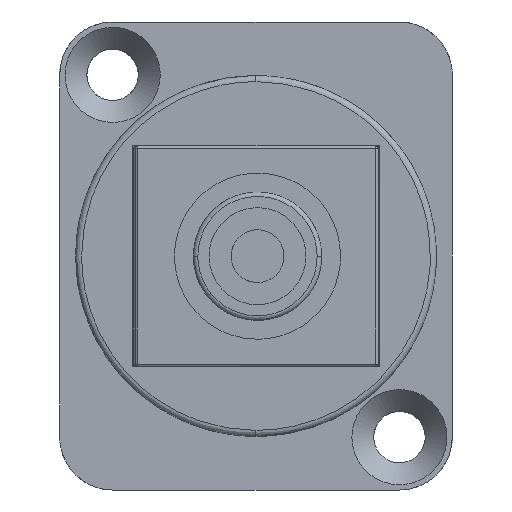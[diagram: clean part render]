
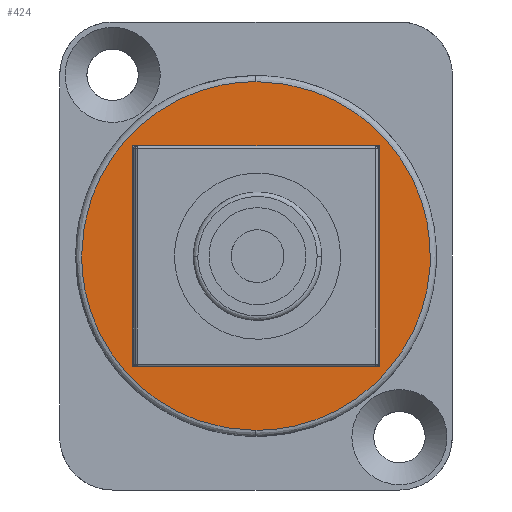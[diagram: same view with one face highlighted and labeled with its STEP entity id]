
A CAD part, front view. The second image highlights one B-rep face of the part: STEP entity #424.
In plain terms, the highlighted free-form (B-spline) face has degree [1, 1] with [2, 2] control points.
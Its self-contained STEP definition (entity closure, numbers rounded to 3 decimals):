
#44 = VERTEX_POINT('',#45);
#45 = CARTESIAN_POINT('',(0.,0.,-11.537));
#65 = EDGE_CURVE('',#44,#66,#68,.T.);
#66 = VERTEX_POINT('',#67);
#67 = CARTESIAN_POINT('',(-11.55,0.,0.013));
#68 = B_SPLINE_CURVE_WITH_KNOTS('',5,(#69,#70,#71,#72,#73,#74,#75,#76,
    #77,#78,#79,#80,#81,#82,#83),.UNSPECIFIED.,.F.,.F.,(6,3,3,3,6),(0.,
    0.393,0.785,1.178,1.571),
  .UNSPECIFIED.);
#69 = CARTESIAN_POINT('',(0.,0.,-11.537));
#70 = CARTESIAN_POINT('',(-0.907,0.,-11.537));
#71 = CARTESIAN_POINT('',(-1.814,0.,-11.448));
#72 = CARTESIAN_POINT('',(-2.71,0.,-11.269));
#73 = CARTESIAN_POINT('',(-4.454,0.,-10.74));
#74 = CARTESIAN_POINT('',(-6.062,0.,-9.881));
#75 = CARTESIAN_POINT('',(-6.821,0.,-9.374));
#76 = CARTESIAN_POINT('',(-8.23,0.,-8.217));
#77 = CARTESIAN_POINT('',(-9.387,0.,-6.808));
#78 = CARTESIAN_POINT('',(-9.894,0.,-6.049));
#79 = CARTESIAN_POINT('',(-10.753,0.,-4.441));
#80 = CARTESIAN_POINT('',(-11.283,0.,-2.696));
#81 = CARTESIAN_POINT('',(-11.461,0.,-1.801));
#82 = CARTESIAN_POINT('',(-11.55,0.,-0.894));
#83 = CARTESIAN_POINT('',(-11.55,0.,0.013));
#85 = EDGE_CURVE('',#66,#86,#88,.T.);
#86 = VERTEX_POINT('',#87);
#87 = CARTESIAN_POINT('',(0.,0.,11.563));
#88 = B_SPLINE_CURVE_WITH_KNOTS('',5,(#89,#90,#91,#92,#93,#94,#95,#96,
    #97,#98,#99,#100,#101,#102,#103),.UNSPECIFIED.,.F.,.F.,(6,3,3,3,6),(
    0.,0.393,0.785,1.178,1.571),
  .UNSPECIFIED.);
#89 = CARTESIAN_POINT('',(-11.55,0.,0.013));
#90 = CARTESIAN_POINT('',(-11.55,0.,0.921));
#91 = CARTESIAN_POINT('',(-11.461,0.,1.828));
#92 = CARTESIAN_POINT('',(-11.283,0.,2.723));
#93 = CARTESIAN_POINT('',(-10.753,0.,4.467));
#94 = CARTESIAN_POINT('',(-9.894,0.,6.075));
#95 = CARTESIAN_POINT('',(-9.387,0.,6.835));
#96 = CARTESIAN_POINT('',(-8.23,0.,8.243));
#97 = CARTESIAN_POINT('',(-6.821,0.,9.4));
#98 = CARTESIAN_POINT('',(-6.062,0.,9.908));
#99 = CARTESIAN_POINT('',(-4.454,0.,10.766));
#100 = CARTESIAN_POINT('',(-2.71,0.,11.296));
#101 = CARTESIAN_POINT('',(-1.814,0.,11.474));
#102 = CARTESIAN_POINT('',(-0.907,0.,11.563));
#103 = CARTESIAN_POINT('',(0.,0.,11.563));
#244 = EDGE_CURVE('',#86,#44,#245,.T.);
#245 = B_SPLINE_CURVE_WITH_KNOTS('',5,(#246,#247,#248,#249,#250,#251,
    #252,#253,#254,#255,#256,#257,#258,#259,#260,#261,#262,#263,#264,
    #265,#266,#267,#268,#269,#270,#271,#272),.UNSPECIFIED.,.F.,.F.,(6,3,
    3,3,3,3,3,3,6),(0.,0.393,0.785,1.178,
    1.571,1.963,2.356,2.749,
    3.142),.UNSPECIFIED.);
#246 = CARTESIAN_POINT('',(0.,0.,11.563));
#247 = CARTESIAN_POINT('',(0.907,0.,11.563));
#248 = CARTESIAN_POINT('',(1.814,0.,11.474));
#249 = CARTESIAN_POINT('',(2.71,0.,11.296));
#250 = CARTESIAN_POINT('',(4.454,0.,10.766));
#251 = CARTESIAN_POINT('',(6.062,0.,9.908));
#252 = CARTESIAN_POINT('',(6.821,0.,9.4));
#253 = CARTESIAN_POINT('',(8.23,0.,8.243));
#254 = CARTESIAN_POINT('',(9.387,0.,6.835));
#255 = CARTESIAN_POINT('',(9.894,0.,6.075));
#256 = CARTESIAN_POINT('',(10.753,0.,4.467));
#257 = CARTESIAN_POINT('',(11.283,0.,2.723));
#258 = CARTESIAN_POINT('',(11.461,0.,1.828));
#259 = CARTESIAN_POINT('',(11.639,0.,0.013));
#260 = CARTESIAN_POINT('',(11.461,0.,-1.801));
#261 = CARTESIAN_POINT('',(11.283,0.,-2.696));
#262 = CARTESIAN_POINT('',(10.753,0.,-4.441));
#263 = CARTESIAN_POINT('',(9.894,0.,-6.049));
#264 = CARTESIAN_POINT('',(9.387,0.,-6.808));
#265 = CARTESIAN_POINT('',(8.23,0.,-8.217));
#266 = CARTESIAN_POINT('',(6.821,0.,-9.374));
#267 = CARTESIAN_POINT('',(6.062,0.,-9.881));
#268 = CARTESIAN_POINT('',(4.454,0.,-10.74));
#269 = CARTESIAN_POINT('',(2.71,0.,-11.269));
#270 = CARTESIAN_POINT('',(1.814,0.,-11.448));
#271 = CARTESIAN_POINT('',(0.907,0.,-11.537));
#272 = CARTESIAN_POINT('',(0.,0.,-11.537));
#424 = ADVANCED_FACE('',(#425,#430),#476,.F.);
#425 = FACE_BOUND('',#426,.F.);
#426 = EDGE_LOOP('',(#427,#428,#429));
#427 = ORIENTED_EDGE('',*,*,#244,.T.);
#428 = ORIENTED_EDGE('',*,*,#65,.T.);
#429 = ORIENTED_EDGE('',*,*,#85,.T.);
#430 = FACE_BOUND('',#431,.F.);
#431 = EDGE_LOOP('',(#432,#445,#456,#467));
#432 = ORIENTED_EDGE('',*,*,#433,.F.);
#433 = EDGE_CURVE('',#434,#436,#438,.T.);
#434 = VERTEX_POINT('',#435);
#435 = CARTESIAN_POINT('',(-8.15,0.,7.325));
#436 = VERTEX_POINT('',#437);
#437 = CARTESIAN_POINT('',(8.15,0.,7.325));
#438 = B_SPLINE_CURVE_WITH_KNOTS('',5,(#439,#440,#441,#442,#443,#444),
  .UNSPECIFIED.,.F.,.F.,(6,6),(0.,16.3),
  .PIECEWISE_BEZIER_KNOTS.);
#439 = CARTESIAN_POINT('',(-8.15,0.,7.325));
#440 = CARTESIAN_POINT('',(-4.89,0.,7.325));
#441 = CARTESIAN_POINT('',(-1.63,0.,7.325));
#442 = CARTESIAN_POINT('',(1.63,0.,7.325));
#443 = CARTESIAN_POINT('',(4.89,0.,7.325));
#444 = CARTESIAN_POINT('',(8.15,0.,7.325));
#445 = ORIENTED_EDGE('',*,*,#446,.F.);
#446 = EDGE_CURVE('',#447,#434,#449,.T.);
#447 = VERTEX_POINT('',#448);
#448 = CARTESIAN_POINT('',(-8.15,0.,-7.325));
#449 = B_SPLINE_CURVE_WITH_KNOTS('',5,(#450,#451,#452,#453,#454,#455),
  .UNSPECIFIED.,.F.,.F.,(6,6),(0.,14.65),
  .PIECEWISE_BEZIER_KNOTS.);
#450 = CARTESIAN_POINT('',(-8.15,0.,-7.325));
#451 = CARTESIAN_POINT('',(-8.15,0.,-4.395));
#452 = CARTESIAN_POINT('',(-8.15,0.,-1.465));
#453 = CARTESIAN_POINT('',(-8.15,0.,1.465));
#454 = CARTESIAN_POINT('',(-8.15,0.,4.395));
#455 = CARTESIAN_POINT('',(-8.15,0.,7.325));
#456 = ORIENTED_EDGE('',*,*,#457,.F.);
#457 = EDGE_CURVE('',#458,#447,#460,.T.);
#458 = VERTEX_POINT('',#459);
#459 = CARTESIAN_POINT('',(8.15,0.,-7.325));
#460 = B_SPLINE_CURVE_WITH_KNOTS('',5,(#461,#462,#463,#464,#465,#466),
  .UNSPECIFIED.,.F.,.F.,(6,6),(0.,16.3),
  .PIECEWISE_BEZIER_KNOTS.);
#461 = CARTESIAN_POINT('',(8.15,0.,-7.325));
#462 = CARTESIAN_POINT('',(4.89,0.,-7.325));
#463 = CARTESIAN_POINT('',(1.63,0.,-7.325));
#464 = CARTESIAN_POINT('',(-1.63,0.,-7.325));
#465 = CARTESIAN_POINT('',(-4.89,0.,-7.325));
#466 = CARTESIAN_POINT('',(-8.15,0.,-7.325));
#467 = ORIENTED_EDGE('',*,*,#468,.F.);
#468 = EDGE_CURVE('',#436,#458,#469,.T.);
#469 = B_SPLINE_CURVE_WITH_KNOTS('',5,(#470,#471,#472,#473,#474,#475),
  .UNSPECIFIED.,.F.,.F.,(6,6),(0.,14.65),
  .PIECEWISE_BEZIER_KNOTS.);
#470 = CARTESIAN_POINT('',(8.15,0.,7.325));
#471 = CARTESIAN_POINT('',(8.15,0.,4.395));
#472 = CARTESIAN_POINT('',(8.15,0.,1.465));
#473 = CARTESIAN_POINT('',(8.15,0.,-1.465));
#474 = CARTESIAN_POINT('',(8.15,0.,-4.395));
#475 = CARTESIAN_POINT('',(8.15,0.,-7.325));
#476 = B_SPLINE_SURFACE_WITH_KNOTS('',1,1,(
    (#477,#478)
    ,(#479,#480)),.UNSPECIFIED.,.F.,.F.,.F.,(2,2),(2,2),(0.,1.),(0.,1.),
  .PIECEWISE_BEZIER_KNOTS.);
#477 = CARTESIAN_POINT('',(-11.55,0.,-11.537));
#478 = CARTESIAN_POINT('',(11.55,0.,-11.537));
#479 = CARTESIAN_POINT('',(-11.55,0.,11.563));
#480 = CARTESIAN_POINT('',(11.55,0.,11.563));
